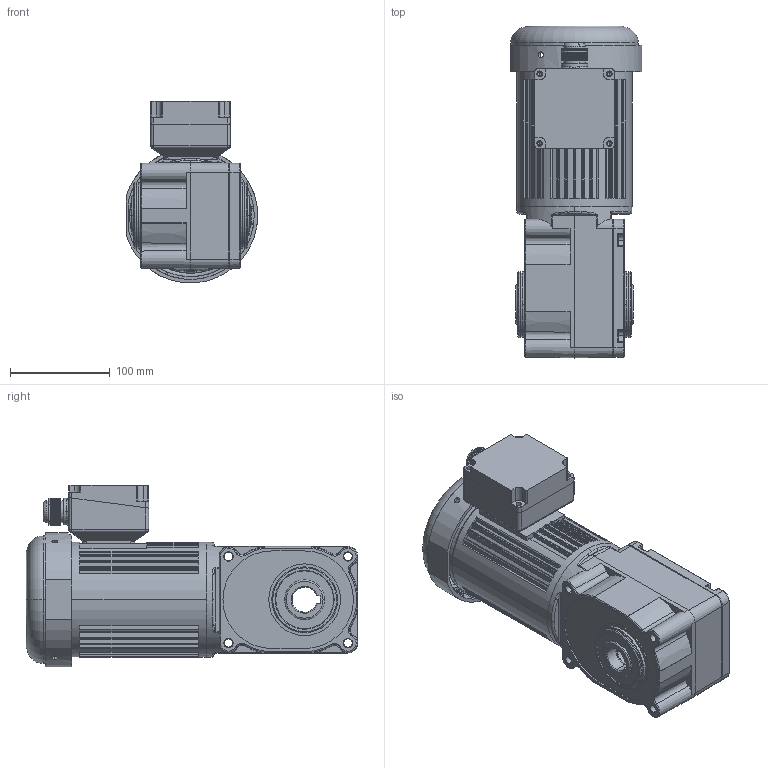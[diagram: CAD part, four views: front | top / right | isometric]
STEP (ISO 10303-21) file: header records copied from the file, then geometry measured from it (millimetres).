
FILE_DESCRIPTION (( 'STEP AP203' ), '1' );
FILE_NAME ('ZDF3-25H5K-60K-200-S3.STEP', '2020-05-05T06:31:41', ( '' ), ( '' ), 'SwSTEP 2.0', 'SolidWorks 2019', '' );
FILE_SCHEMA (( 'CONFIG_CONTROL_DESIGN' ));
Length unit declared in the file: millimetre
Products named in the file (3): ZDF3-25H5K-60K-200-S3; ZDF3-25H5K-60K-200-S3(B); 嫖萇儂
Assembly tree (2 placements, depth 2):
  ZDF3-25H5K-60K-200-S3
    ZDF3-25H5K-60K-200-S3(B)
    嫖萇儂
Bounding box: 132 x 333.17 x 182.35 mm (x, y, z)
Volume: 1991445.9 mm3; surface area: 384889.1 mm2
Topology: 8 solids, 8 shells, 1617 faces, 4295 edges, 2731 vertices
Faces by surface type: cylinder 946, plane 424, cone 106, torus 83, sphere 30, bspline 28
Entity records: 55388 total; most frequent: CARTESIAN_POINT 13574, DIRECTION 9207, ORIENTED_EDGE 8524, EDGE_CURVE 4262, AXIS2_PLACEMENT_3D 3666, VERTEX_POINT 2731, CIRCLE 2072, EDGE_LOOP 1969
